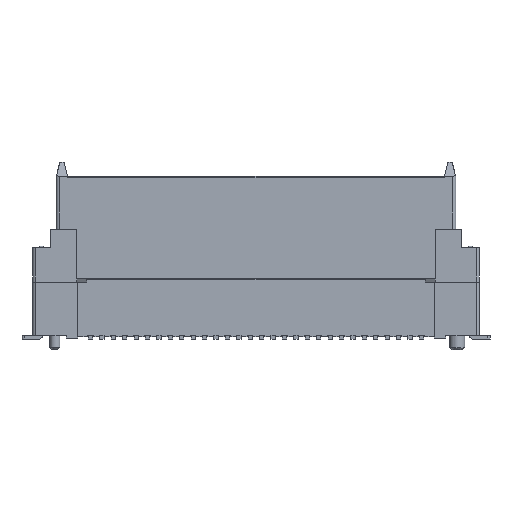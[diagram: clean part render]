
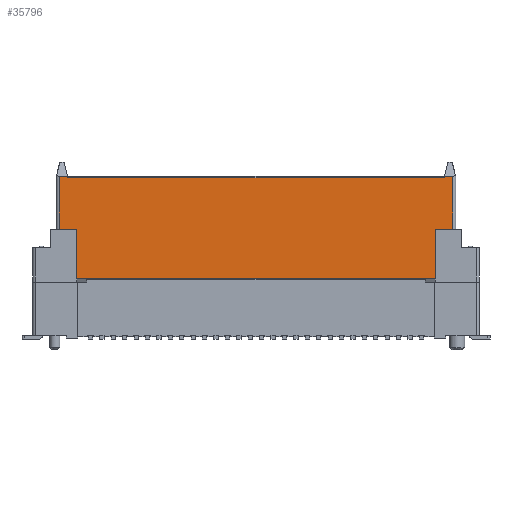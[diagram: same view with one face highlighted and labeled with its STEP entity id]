
A CAD part, front view. The second image highlights one B-rep face of the part: STEP entity #35796.
In plain terms, the highlighted planar face has unit normal (0, -1, 0).
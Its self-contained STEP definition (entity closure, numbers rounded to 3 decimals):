
#32904=CARTESIAN_POINT('Vertex',(-12.55,-2.175,7.65)) ;
#32934=CARTESIAN_POINT('Vertex',(-12.55,-2.175,4.2)) ;
#32937=CARTESIAN_POINT('Line Origine',(-12.55,-2.175,5.925)) ;
#32957=CARTESIAN_POINT('Vertex',(12.55,-2.175,7.65)) ;
#32960=CARTESIAN_POINT('Line Origine',(12.55,-2.175,5.925)) ;
#32964=CARTESIAN_POINT('Vertex',(12.55,-2.175,4.2)) ;
#34829=CARTESIAN_POINT('Vertex',(13.2,-2.175,11.25)) ;
#34845=CARTESIAN_POINT('Vertex',(-13.2,-2.175,11.25)) ;
#34848=CARTESIAN_POINT('Line Origine',(-1.395,-2.175,11.25)) ;
#34885=CARTESIAN_POINT('Vertex',(13.8,-2.175,7.65)) ;
#34888=CARTESIAN_POINT('Line Origine',(13.5,-2.175,7.65)) ;
#34892=CARTESIAN_POINT('Vertex',(13.2,-2.175,7.65)) ;
#34895=CARTESIAN_POINT('Line Origine',(12.875,-2.175,7.65)) ;
#34959=CARTESIAN_POINT('Line Origine',(-12.875,-2.175,7.65)) ;
#34963=CARTESIAN_POINT('Vertex',(-13.2,-2.175,7.65)) ;
#34966=CARTESIAN_POINT('Line Origine',(-13.5,-2.175,7.65)) ;
#34970=CARTESIAN_POINT('Vertex',(-13.8,-2.175,7.65)) ;
#35319=CARTESIAN_POINT('Line Origine',(13.2,-2.175,11.3)) ;
#35323=CARTESIAN_POINT('Vertex',(13.2,-2.175,11.35)) ;
#35341=CARTESIAN_POINT('Vertex',(-13.2,-2.175,11.35)) ;
#35344=CARTESIAN_POINT('Line Origine',(-13.2,-2.175,11.3)) ;
#35401=CARTESIAN_POINT('Line Origine',(-13.8,-2.175,8.275)) ;
#35405=CARTESIAN_POINT('Vertex',(-13.8,-2.175,11.35)) ;
#35445=CARTESIAN_POINT('Line Origine',(0.,-2.175,11.35)) ;
#35733=CARTESIAN_POINT('Line Origine',(13.8,-2.175,8.275)) ;
#35737=CARTESIAN_POINT('Vertex',(13.8,-2.175,11.35)) ;
#35765=CARTESIAN_POINT('Axis2P3D Location',(0.,-2.175,7.65)) ;
#35770=CARTESIAN_POINT('Line Origine',(13.5,-2.175,11.35)) ;
#35775=CARTESIAN_POINT('Line Origine',(0.,-2.175,4.2)) ;
#32938=DIRECTION('Vector Direction',(0.,0.,-1.)) ;
#32961=DIRECTION('Vector Direction',(0.,0.,-1.)) ;
#34849=DIRECTION('Vector Direction',(1.,0.,0.)) ;
#34889=DIRECTION('Vector Direction',(1.,0.,0.)) ;
#34896=DIRECTION('Vector Direction',(1.,0.,0.)) ;
#34960=DIRECTION('Vector Direction',(1.,0.,0.)) ;
#34967=DIRECTION('Vector Direction',(-1.,0.,0.)) ;
#35320=DIRECTION('Vector Direction',(0.,0.,1.)) ;
#35345=DIRECTION('Vector Direction',(0.,0.,1.)) ;
#35402=DIRECTION('Vector Direction',(0.,0.,1.)) ;
#35446=DIRECTION('Vector Direction',(-1.,0.,0.)) ;
#35734=DIRECTION('Vector Direction',(0.,0.,1.)) ;
#35766=DIRECTION('Axis2P3D Direction',(0.,1.,0.)) ;
#35767=DIRECTION('Axis2P3D XDirection',(0.,0.,1.)) ;
#35771=DIRECTION('Vector Direction',(-1.,0.,0.)) ;
#35776=DIRECTION('Vector Direction',(-1.,0.,0.)) ;
#35768=AXIS2_PLACEMENT_3D('Plane Axis2P3D',#35765,#35766,#35767) ;
#35781=ORIENTED_EDGE('',*,*,#35774,.F.) ;
#35782=ORIENTED_EDGE('',*,*,#35325,.F.) ;
#35783=ORIENTED_EDGE('',*,*,#34852,.F.) ;
#35784=ORIENTED_EDGE('',*,*,#35348,.F.) ;
#35785=ORIENTED_EDGE('',*,*,#35449,.F.) ;
#35786=ORIENTED_EDGE('',*,*,#35407,.F.) ;
#35787=ORIENTED_EDGE('',*,*,#34972,.T.) ;
#35788=ORIENTED_EDGE('',*,*,#34965,.T.) ;
#35789=ORIENTED_EDGE('',*,*,#32941,.T.) ;
#35790=ORIENTED_EDGE('',*,*,#35779,.F.) ;
#35791=ORIENTED_EDGE('',*,*,#32966,.F.) ;
#35792=ORIENTED_EDGE('',*,*,#34899,.T.) ;
#35793=ORIENTED_EDGE('',*,*,#34894,.T.) ;
#35794=ORIENTED_EDGE('',*,*,#35739,.T.) ;
#32939=VECTOR('Line Direction',#32938,1.) ;
#32962=VECTOR('Line Direction',#32961,1.) ;
#34850=VECTOR('Line Direction',#34849,1.) ;
#34890=VECTOR('Line Direction',#34889,1.) ;
#34897=VECTOR('Line Direction',#34896,1.) ;
#34961=VECTOR('Line Direction',#34960,1.) ;
#34968=VECTOR('Line Direction',#34967,1.) ;
#35321=VECTOR('Line Direction',#35320,1.) ;
#35346=VECTOR('Line Direction',#35345,1.) ;
#35403=VECTOR('Line Direction',#35402,1.) ;
#35447=VECTOR('Line Direction',#35446,1.) ;
#35735=VECTOR('Line Direction',#35734,1.) ;
#35772=VECTOR('Line Direction',#35771,1.) ;
#35777=VECTOR('Line Direction',#35776,1.) ;
#35796=ADVANCED_FACE('\X2\585180F6\X0\2',(#35795),#35769,.F.) ;
#32941=EDGE_CURVE('',#32905,#32935,#32940,.T.) ;
#32966=EDGE_CURVE('',#32958,#32965,#32963,.T.) ;
#34852=EDGE_CURVE('',#34846,#34830,#34851,.T.) ;
#34894=EDGE_CURVE('',#34893,#34886,#34891,.T.) ;
#34899=EDGE_CURVE('',#32958,#34893,#34898,.T.) ;
#34965=EDGE_CURVE('',#34964,#32905,#34962,.T.) ;
#34972=EDGE_CURVE('',#34971,#34964,#34969,.F.) ;
#35325=EDGE_CURVE('',#34830,#35324,#35322,.T.) ;
#35348=EDGE_CURVE('',#35342,#34846,#35347,.F.) ;
#35407=EDGE_CURVE('',#34971,#35406,#35404,.T.) ;
#35449=EDGE_CURVE('',#35406,#35342,#35448,.F.) ;
#35739=EDGE_CURVE('',#34886,#35738,#35736,.T.) ;
#35774=EDGE_CURVE('',#35324,#35738,#35773,.F.) ;
#35779=EDGE_CURVE('',#32965,#32935,#35778,.T.) ;
#35780=EDGE_LOOP('',(#35781,#35782,#35783,#35784,#35785,#35786,#35787,#35788,#35789,#35790,#35791,#35792,#35793,#35794)) ;
#35795=FACE_OUTER_BOUND('',#35780,.T.) ;
#32940=LINE('Line',#32937,#32939) ;
#32963=LINE('Line',#32960,#32962) ;
#34851=LINE('Line',#34848,#34850) ;
#34891=LINE('Line',#34888,#34890) ;
#34898=LINE('Line',#34895,#34897) ;
#34962=LINE('Line',#34959,#34961) ;
#34969=LINE('Line',#34966,#34968) ;
#35322=LINE('Line',#35319,#35321) ;
#35347=LINE('Line',#35344,#35346) ;
#35404=LINE('Line',#35401,#35403) ;
#35448=LINE('Line',#35445,#35447) ;
#35736=LINE('Line',#35733,#35735) ;
#35773=LINE('Line',#35770,#35772) ;
#35778=LINE('Line',#35775,#35777) ;
#35769=PLANE('Plane',#35768) ;
#32905=VERTEX_POINT('',#32904) ;
#32935=VERTEX_POINT('',#32934) ;
#32958=VERTEX_POINT('',#32957) ;
#32965=VERTEX_POINT('',#32964) ;
#34830=VERTEX_POINT('',#34829) ;
#34846=VERTEX_POINT('',#34845) ;
#34886=VERTEX_POINT('',#34885) ;
#34893=VERTEX_POINT('',#34892) ;
#34964=VERTEX_POINT('',#34963) ;
#34971=VERTEX_POINT('',#34970) ;
#35324=VERTEX_POINT('',#35323) ;
#35342=VERTEX_POINT('',#35341) ;
#35406=VERTEX_POINT('',#35405) ;
#35738=VERTEX_POINT('',#35737) ;
